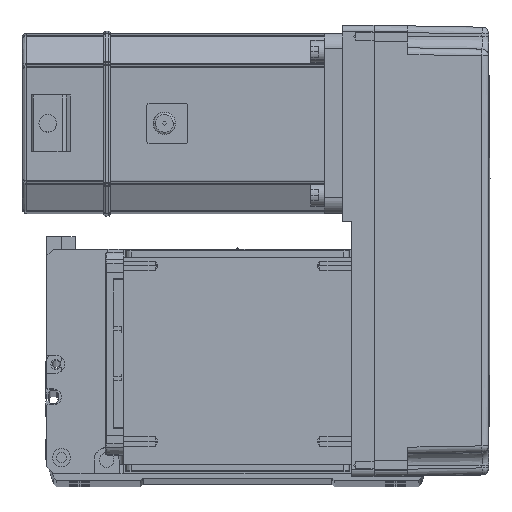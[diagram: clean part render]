
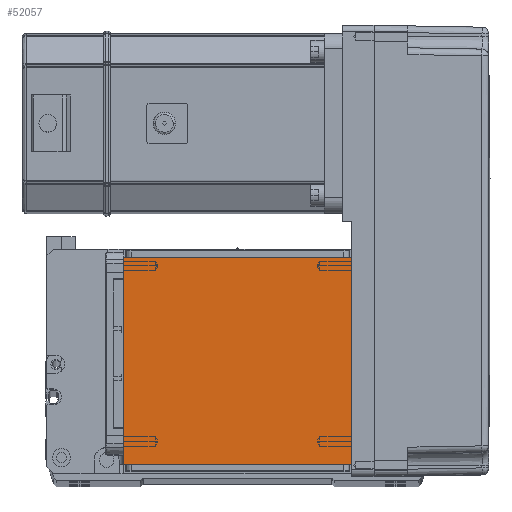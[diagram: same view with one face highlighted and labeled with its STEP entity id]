
A CAD part, top view. The second image highlights one B-rep face of the part: STEP entity #52057.
In plain terms, the highlighted planar face has unit normal (0, 0, 1).
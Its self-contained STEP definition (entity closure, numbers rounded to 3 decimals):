
#2053 = VERTEX_POINT ( 'NONE', #5784 ) ;
#2627 = CARTESIAN_POINT ( 'NONE',  ( -50.5, 20., 115. ) ) ;
#4691 = CARTESIAN_POINT ( 'NONE',  ( 50.5, 122., 115. ) ) ;
#5784 = CARTESIAN_POINT ( 'NONE',  ( -50.5, 111.5, 115. ) ) ;
#6237 = EDGE_CURVE ( 'NONE', #2053, #53395, #41849, .T. ) ;
#8596 = ORIENTED_EDGE ( 'NONE', *, *, #6237, .T. ) ;
#9721 = CARTESIAN_POINT ( 'NONE',  ( -70.004, 111.5, 115. ) ) ;
#9750 = VECTOR ( 'NONE', #53254, 1000. ) ;
#10488 = LINE ( 'NONE', #9721, #44726 ) ;
#14308 = ORIENTED_EDGE ( 'NONE', *, *, #21454, .F. ) ;
#14614 = VERTEX_POINT ( 'NONE', #53443 ) ;
#15639 = EDGE_CURVE ( 'NONE', #2053, #22158, #10488, .T. ) ;
#17073 = ORIENTED_EDGE ( 'NONE', *, *, #15639, .F. ) ;
#17297 = LINE ( 'NONE', #4691, #24647 ) ;
#18820 = LINE ( 'NONE', #47840, #28327 ) ;
#21454 = EDGE_CURVE ( 'NONE', #14614, #53395, #18820, .T. ) ;
#22046 = EDGE_CURVE ( 'NONE', #14614, #22158, #17297, .T. ) ;
#22158 = VERTEX_POINT ( 'NONE', #42206 ) ;
#22462 = DIRECTION ( 'NONE',  ( 0., 0., 1. ) ) ;
#24647 = VECTOR ( 'NONE', #28212, 1000. ) ;
#28212 = DIRECTION ( 'NONE',  ( 0., 1., 0. ) ) ;
#28327 = VECTOR ( 'NONE', #49045, 1000. ) ;
#31432 = DIRECTION ( 'NONE',  ( 1., 0., 0. ) ) ;
#36743 = AXIS2_PLACEMENT_3D ( 'NONE', #50276, #22462, #31432 ) ;
#38687 = FACE_OUTER_BOUND ( 'NONE', #54773, .T. ) ;
#41849 = LINE ( 'NONE', #58120, #9750 ) ;
#42206 = CARTESIAN_POINT ( 'NONE',  ( 50.5, 111.5, 115. ) ) ;
#42331 = DIRECTION ( 'NONE',  ( 1., 0., 0. ) ) ;
#44726 = VECTOR ( 'NONE', #42331, 1000. ) ;
#46033 = ORIENTED_EDGE ( 'NONE', *, *, #22046, .T. ) ;
#47840 = CARTESIAN_POINT ( 'NONE',  ( -70.004, 20., 115. ) ) ;
#49045 = DIRECTION ( 'NONE',  ( -1., 0., 0. ) ) ;
#50276 = CARTESIAN_POINT ( 'NONE',  ( 0., 0., 115. ) ) ;
#52057 = ADVANCED_FACE ( 'NONE', ( #38687 ), #54954, .T. ) ;
#53254 = DIRECTION ( 'NONE',  ( 0., -1., 0. ) ) ;
#53395 = VERTEX_POINT ( 'NONE', #2627 ) ;
#53443 = CARTESIAN_POINT ( 'NONE',  ( 50.5, 20., 115. ) ) ;
#54773 = EDGE_LOOP ( 'NONE', ( #17073, #8596, #14308, #46033 ) ) ;
#54954 = PLANE ( 'NONE',  #36743 ) ;
#58120 = CARTESIAN_POINT ( 'NONE',  ( -50.5, 122., 115. ) ) ;
